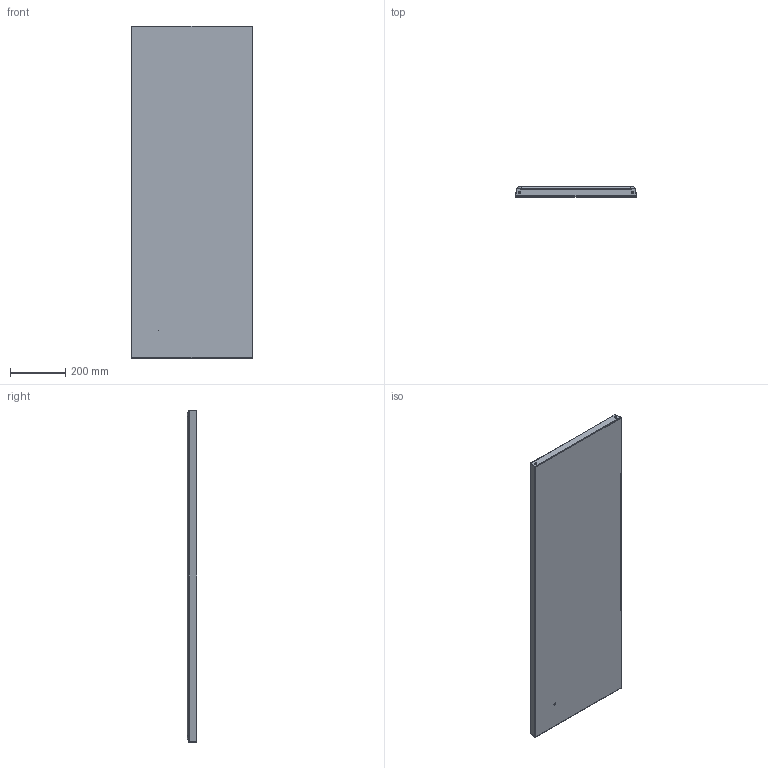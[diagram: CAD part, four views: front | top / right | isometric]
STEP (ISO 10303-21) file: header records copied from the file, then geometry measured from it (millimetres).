
FILE_DESCRIPTION((''),'2;1');
FILE_NAME('7-09017-04-3_ASM','2014-05-22T',('r-maciej'),('BAS'),'PRO/ENGINEER BY PARAMETRIC TECHNOLOGY CORPORATION, 2014000','PRO/ENGINEER BY PARAMETRIC TECHNOLOGY CORPORATION, 2014000','');
FILE_SCHEMA(('CONFIG_CONTROL_DESIGN'));
Length unit declared in the file: millimetre
Products named in the file (6): 7-09017-04-3; TRZPIEN_M8X15; 7-09017-04-3__ASM; USZCZELKA_BDP_12; NITONAKRETKA-M6-PRZELOT; 7-09017-04-3_ASM
Assembly tree (8 placements, depth 3):
  7-09017-04-3_ASM
    7-09017-04-3__ASM
      7-09017-04-3
      TRZPIEN_M8X15
    USZCZELKA_BDP_12
    NITONAKRETKA-M6-PRZELOT  x4
Bounding box: 440.8 x 35 x 1200 mm (x, y, z)
Volume: 1506681.5 mm3; surface area: 1464747.1 mm2
Topology: 7 solids, 7 shells, 210 faces, 470 edges, 286 vertices
Faces by surface type: plane 102, cylinder 74, cone 18, torus 12, bspline 4
Entity records: 4653 total; most frequent: CARTESIAN_POINT 903, DIRECTION 798, ORIENTED_EDGE 712, EDGE_CURVE 356, AXIS2_PLACEMENT_3D 285, VECTOR 228, LINE 228, VERTEX_POINT 214
